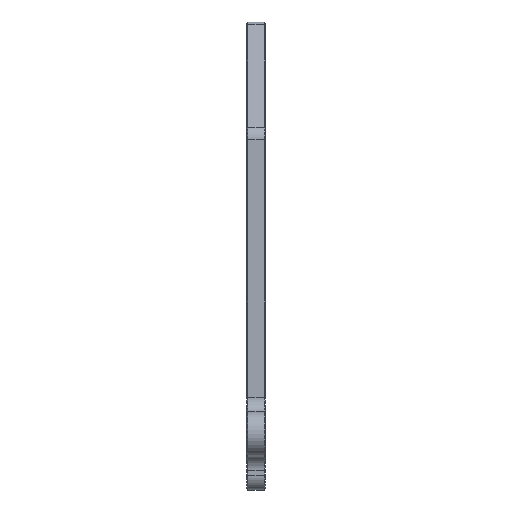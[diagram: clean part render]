
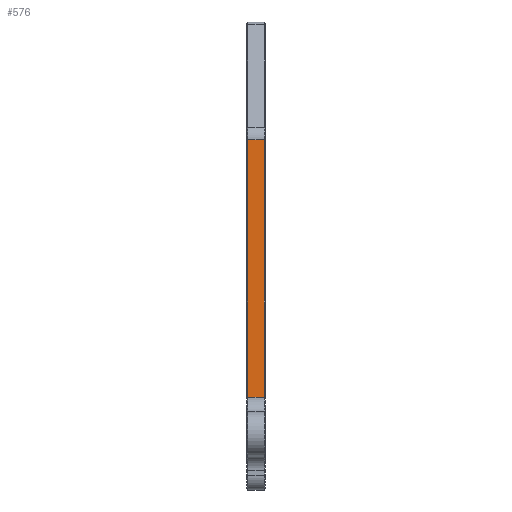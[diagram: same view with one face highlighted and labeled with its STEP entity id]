
A CAD part, left-side view. The second image highlights one B-rep face of the part: STEP entity #576.
In plain terms, the highlighted planar face has unit normal (-1, 0, 0).
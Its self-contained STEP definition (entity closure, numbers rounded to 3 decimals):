
#2 = PLANE ( 'NONE',  #1838 ) ;
#115 = CARTESIAN_POINT ( 'NONE',  ( -21.2, 5., 29.13 ) ) ;
#330 = EDGE_CURVE ( 'NONE', #2974, #5736, #5274, .T. ) ;
#452 = CARTESIAN_POINT ( 'NONE',  ( -21.2, 5., 0. ) ) ;
#576 = ADVANCED_FACE ( 'NONE', ( #2850 ), #2, .F. ) ;
#690 = LINE ( 'NONE', #2543, #1669 ) ;
#792 = CARTESIAN_POINT ( 'NONE',  ( -21.2, 4.7, -41.2 ) ) ;
#820 = DIRECTION ( 'NONE',  ( 0., 0., -1. ) ) ;
#1123 = CARTESIAN_POINT ( 'NONE',  ( -21.2, 0.3, -41.2 ) ) ;
#1181 = CARTESIAN_POINT ( 'NONE',  ( -21.2, 4.7, -41.2 ) ) ;
#1288 = ORIENTED_EDGE ( 'NONE', *, *, #4529, .T. ) ;
#1669 = VECTOR ( 'NONE', #1686, 1000. ) ;
#1686 = DIRECTION ( 'NONE',  ( 0., -1., 0. ) ) ;
#1838 = AXIS2_PLACEMENT_3D ( 'NONE', #452, #1901, #2728 ) ;
#1901 = DIRECTION ( 'NONE',  ( 1., 0., 0. ) ) ;
#2136 = LINE ( 'NONE', #792, #3823 ) ;
#2543 = CARTESIAN_POINT ( 'NONE',  ( -21.2, 0., -41.2 ) ) ;
#2569 = ORIENTED_EDGE ( 'NONE', *, *, #5391, .T. ) ;
#2728 = DIRECTION ( 'NONE',  ( 0., 0., -1. ) ) ;
#2819 = EDGE_LOOP ( 'NONE', ( #1288, #4597, #3459, #2569 ) ) ;
#2836 = EDGE_CURVE ( 'NONE', #2918, #2974, #3286, .T. ) ;
#2850 = FACE_OUTER_BOUND ( 'NONE', #2819, .T. ) ;
#2918 = VERTEX_POINT ( 'NONE', #1123 ) ;
#2974 = VERTEX_POINT ( 'NONE', #3437 ) ;
#3286 = LINE ( 'NONE', #5723, #3369 ) ;
#3369 = VECTOR ( 'NONE', #3761, 1000. ) ;
#3437 = CARTESIAN_POINT ( 'NONE',  ( -21.2, 0.3, 29.13 ) ) ;
#3459 = ORIENTED_EDGE ( 'NONE', *, *, #330, .T. ) ;
#3761 = DIRECTION ( 'NONE',  ( 0., 0., 1. ) ) ;
#3823 = VECTOR ( 'NONE', #820, 1000. ) ;
#4380 = DIRECTION ( 'NONE',  ( 0., 1., 0. ) ) ;
#4529 = EDGE_CURVE ( 'NONE', #5395, #2918, #690, .T. ) ;
#4585 = VECTOR ( 'NONE', #4380, 1000. ) ;
#4597 = ORIENTED_EDGE ( 'NONE', *, *, #2836, .T. ) ;
#5274 = LINE ( 'NONE', #115, #4585 ) ;
#5391 = EDGE_CURVE ( 'NONE', #5736, #5395, #2136, .T. ) ;
#5395 = VERTEX_POINT ( 'NONE', #1181 ) ;
#5723 = CARTESIAN_POINT ( 'NONE',  ( -21.2, 0.3, 0. ) ) ;
#5736 = VERTEX_POINT ( 'NONE', #5867 ) ;
#5867 = CARTESIAN_POINT ( 'NONE',  ( -21.2, 4.7, 29.13 ) ) ;
